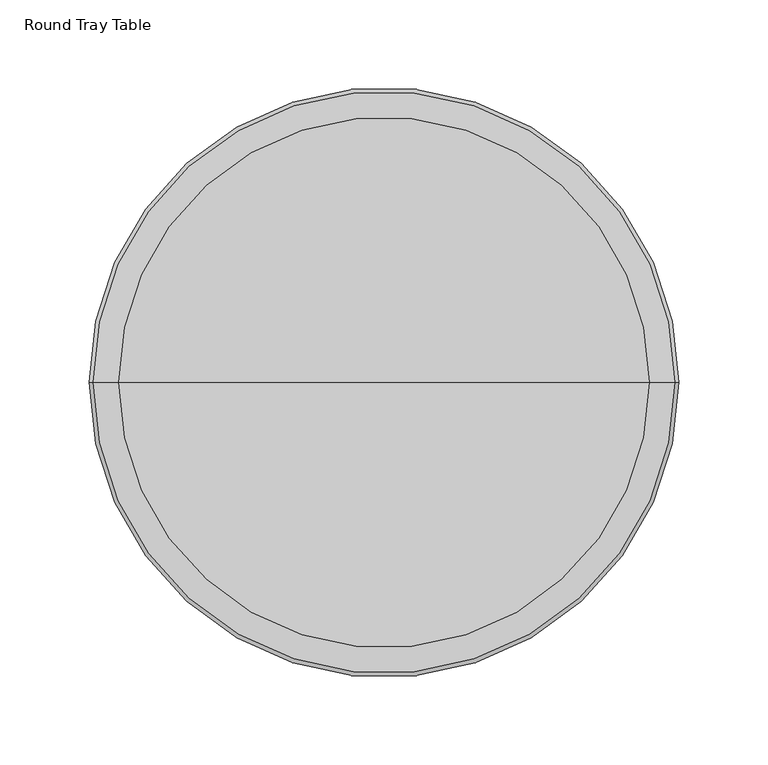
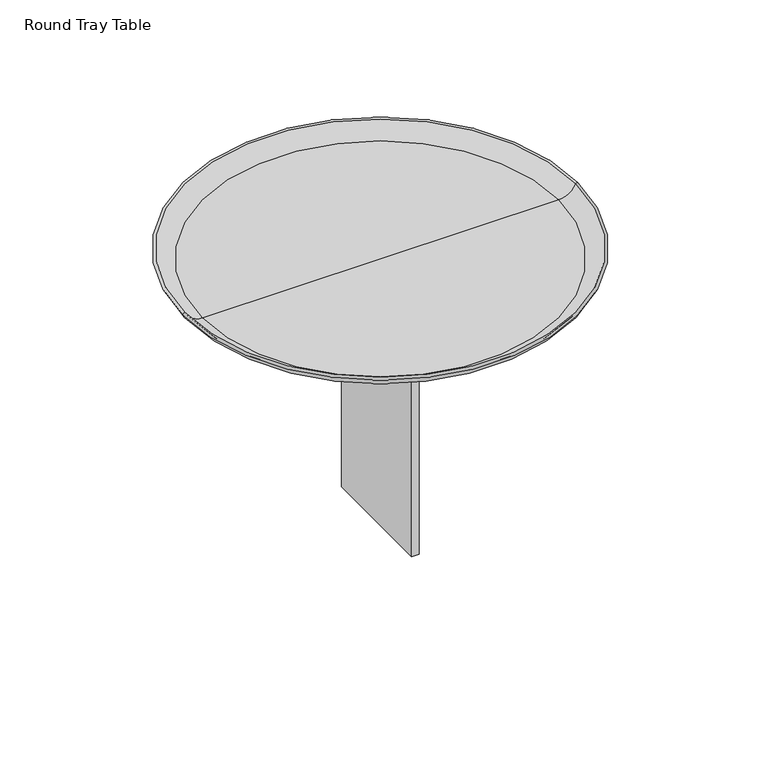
"""IFC4 building model written with IfcOpenShell, lengths in millimetres: furniture geometry, Stylex - Luna - Tray Table : Round Tray Table."""

from ifc_helpers import new_model, si_unit, point, frame, origin, place, context, project, spatial, polyline, circle_curve, ellipse_curve, trimmed, outline, extrude, source, transform, mapped, element, save
from ifc_brep_helpers import plane_surface, revolved_surface, advanced_brep


def round_tray_table_989d8179(model_context):
    return source(origin(), model_context, "Body", "SolidModel", [
        advanced_brep(
        [(0.0, 0.0, 533.4113535), (-148.6186409, 0.0, 533.4113535), (148.6186409, 0.0, 533.4113535), (148.6186409, 0.0, 535.7926035), (-148.6186409, 0.0, 535.7926035), (0.0, 0.0, 535.7926035), (162.9267675, 0.0, 545.1212685), (-162.9267675, 0.0, 545.1212685), (165.1056392, 0.0, 544.1606072), (-165.1056392, 0.0, 544.1606072)],
        [
            (0, 1),
            (1, 2, circle_curve(frame((0.0, 0.0, 533.4113535), z_axis=(0.0, 0.0, -1.0), x_axis=(-1.0, 0.0, 0.0)), 148.6186409)),
            (2, 0),
            (2, 1, circle_curve(frame((0.0, 0.0, 533.4113535), z_axis=(0.0, 0.0, -1.0), x_axis=(-1.0, 0.0, 0.0)), 148.6186409)),
            (3, 4, circle_curve(frame((0.0, 0.0, 535.7926035), z_axis=(0.0, 0.0, 1.0), x_axis=(-1.0, 0.0, 0.0)), 148.6186409)),
            (4, 5),
            (5, 3),
            (4, 3, circle_curve(frame((0.0, 0.0, 535.7926035), z_axis=(0.0, 0.0, 1.0), x_axis=(-1.0, 0.0, 0.0)), 148.6186409)),
            (6, 7, circle_curve(frame((0.0, 0.0, 545.1212685), z_axis=(0.0, 0.0, 1.0), x_axis=(-1.0, 0.0, 0.0)), 162.9267675)),
            (7, 4, circle_curve(frame((-148.6186409, 0.0, 551.4297004), z_axis=(0.0, -1.0, 0.0), x_axis=(1.0, 0.0, 0.0)), 15.637097)),
            (3, 6, circle_curve(frame((148.6186409, 0.0, 551.4297004), z_axis=(0.0, -1.0, 0.0), x_axis=(-1.0, 0.0, 0.0)), 15.637097)),
            (7, 6, circle_curve(frame((0.0, 0.0, 545.1212685), z_axis=(0.0, 0.0, 1.0), x_axis=(-1.0, 0.0, 0.0)), 162.9267675)),
            (8, 9, circle_curve(frame((0.0, 0.0, 544.1606072), z_axis=(0.0, 0.0, 1.0), x_axis=(-1.0, 0.0, 0.0)), 165.1056392)),
            (9, 7, circle_curve(frame((-164.0162033, 0.0, 544.6409379), z_axis=(0.0, 1.0, 0.0), x_axis=(1.0, 0.0, 0.0)), 1.190625)),
            (6, 8, circle_curve(frame((164.0162033, 0.0, 544.6409379), z_axis=(0.0, 1.0, 0.0), x_axis=(-1.0, 0.0, 0.0)), 1.190625)),
            (9, 8, circle_curve(frame((0.0, 0.0, 544.1606072), z_axis=(0.0, 0.0, 1.0), x_axis=(-1.0, 0.0, 0.0)), 165.1056392)),
            (1, 9, circle_curve(frame((-148.6186409, 0.0, 551.4297004), z_axis=(0.0, 1.0, 0.0), x_axis=(1.0, 0.0, 0.0)), 18.018347)),
            (8, 2, circle_curve(frame((148.6186409, 0.0, 551.4297004), z_axis=(0.0, 1.0, 0.0), x_axis=(-1.0, 0.0, 0.0)), 18.018347)),
        ],
        [
            plane_surface(frame((0.0, 0.0, 533.4113535), z_axis=(0.0, 0.0, -1.0), x_axis=(-1.0, 0.0, 0.0))),
            plane_surface(frame((0.0, 0.0, 535.7926035), z_axis=(0.0, 0.0, 1.0), x_axis=(-1.0, 0.0, 0.0))),
            revolved_surface(trimmed(ellipse_curve(frame((-148.6186409, 0.0, 551.4297004), z_axis=(0.0, 1.0, 0.0), x_axis=(1.0, 0.0, 0.0)), 15.637097, 15.637097), [point((-148.6186409, 0.0, 535.7926035))], [point((-162.9267675, 0.0, 545.1212685))], True, "CARTESIAN"), (0.0, 0.0, -141.2570186), (0.0, 0.0, -1.0)),
            revolved_surface(trimmed(ellipse_curve(frame((-164.0162033, 0.0, 544.6409379), z_axis=(0.0, -1.0, 0.0), x_axis=(1.0, 0.0, 0.0)), 1.190625, 1.190625), [point((-162.9267675, 0.0, 545.1212685))], [point((-165.1056392, 0.0, 544.1606072))], True, "CARTESIAN"), (0.0, 0.0, -141.2570186), (0.0, 0.0, -1.0)),
            revolved_surface(trimmed(ellipse_curve(frame((-148.6186409, 0.0, 551.4297004), z_axis=(0.0, -1.0, 0.0), x_axis=(1.0, 0.0, 0.0)), 18.018347, 18.018347), [point((-165.1056392, 0.0, 544.1606072))], [point((-148.6186409, 0.0, 533.4113535))], True, "CARTESIAN"), (0.0, 0.0, -141.2570186), (0.0, 0.0, -1.0)),
        ],
        [
            (0, [[1, 2, 3]]),
            (0, [[-3, 4, -1]]),
            (1, [[5, 6, 7]]),
            (1, [[8, -7, -6]]),
            (2, [[9, 10, -5, 11]]),
            (2, [[12, -11, -8, -10]]),
            (3, [[13, 14, -9, 15]]),
            (3, [[16, -15, -12, -14]]),
            (4, [[-2, 17, -13, 18]]),
            (4, [[-4, -18, -16, -17]]),
        ],
    ),
        extrude(outline(polyline([(3.1705626, -50.7927911), (-3.1705626, -50.7927911), (-3.1705626, 50.8023254), (3.1705626, 50.8023254), (3.1705626, -50.7927911)])), frame((0.0, 0.0, 304.8), z_axis=(0.0, 0.0, 1.0), x_axis=(1.0, 0.0, 0.0)), (0.0, 0.0, 1.0), 225.4262624),
        extrude(outline(polyline([(50.9496786, -50.7927911), (-50.823994, -50.7927911), (-50.823994, 50.8023254), (50.9496786, 50.8023254), (50.9496786, -50.7927911)])), frame((0.0, 0.0, 530.2262624), z_axis=(0.0, 0.0, 1.0), x_axis=(1.0, 0.0, 0.0)), (0.0, 0.0, 1.0), 3.1850911),
    ])


if __name__ == "__main__":
    model = new_model("IFC4")
    model_context = context("Model", 3, world=origin())
    ifc_project = project(units=[si_unit("LENGTHUNIT", "METRE", prefix="MILLI")], contexts=[model_context])
    site = spatial("IfcSite", under=ifc_project)
    building = spatial("IfcBuilding", under=site)
    placement = place(None, origin())
    round_tray_table_shape = round_tray_table_989d8179(model_context)
    element("IfcFurniture", 1, ObjectType="Stylex - Luna - Tray Table : Round Tray Table", at=placement, inside=building, context=model_context, shape_type="MappedRepresentation", body=[
        mapped(round_tray_table_shape, transform((0.0, 0.0, 0.0), x_axis=(1.0, 0.0, 0.0), y_axis=(0.0, 1.0, 0.0), z_axis=(0.0, 0.0, 1.0))),
    ])
    save(model, "model.ifc")
